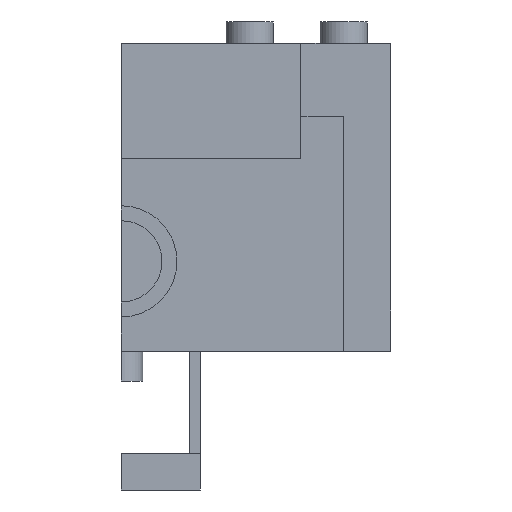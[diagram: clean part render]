
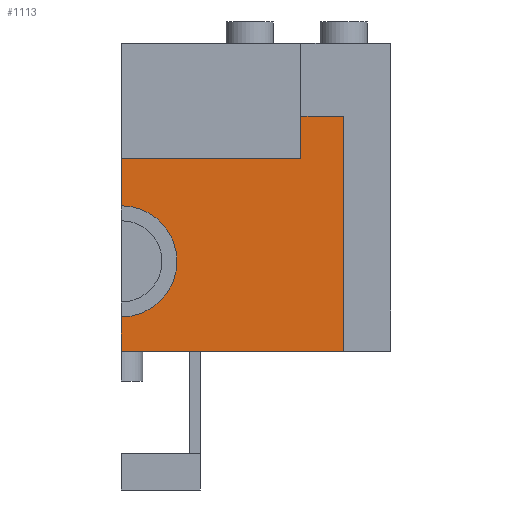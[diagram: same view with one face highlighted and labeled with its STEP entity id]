
A CAD part, left-side view. The second image highlights one B-rep face of the part: STEP entity #1113.
In plain terms, the highlighted planar face has unit normal (-1, 0, 0).
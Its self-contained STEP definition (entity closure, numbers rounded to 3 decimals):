
#100 = PLANE('',#101);
#101 = AXIS2_PLACEMENT_3D('',#102,#103,#104);
#102 = CARTESIAN_POINT('',(-48.,-63.,714.));
#103 = DIRECTION('',(0.,0.,1.));
#104 = DIRECTION('',(1.,0.,-0.));
#127 = PLANE('',#128);
#128 = AXIS2_PLACEMENT_3D('',#129,#130,#131);
#129 = CARTESIAN_POINT('',(-62.,-52.,714.));
#130 = DIRECTION('',(-0.,1.,0.));
#131 = DIRECTION('',(0.,0.,1.));
#153 = PLANE('',#154);
#154 = AXIS2_PLACEMENT_3D('',#155,#156,#157);
#155 = CARTESIAN_POINT('',(-62.,-52.,769.));
#156 = DIRECTION('',(0.,0.,1.));
#157 = DIRECTION('',(1.,0.,-0.));
#177 = PLANE('',#178);
#178 = AXIS2_PLACEMENT_3D('',#179,#180,#181);
#179 = CARTESIAN_POINT('',(-90.,-42.,759.));
#180 = DIRECTION('',(-0.,1.,0.));
#181 = DIRECTION('',(0.,0.,1.));
#295 = VERTEX_POINT('',#296);
#296 = CARTESIAN_POINT('',(-62.,-42.,759.));
#312 = PLANE('',#313);
#313 = AXIS2_PLACEMENT_3D('',#314,#315,#316);
#314 = CARTESIAN_POINT('',(-90.,-42.,759.));
#315 = DIRECTION('',(0.,0.,1.));
#316 = DIRECTION('',(1.,0.,-0.));
#324 = EDGE_CURVE('',#295,#325,#327,.T.);
#325 = VERTEX_POINT('',#326);
#326 = CARTESIAN_POINT('',(-62.,-42.,769.));
#327 = SURFACE_CURVE('',#328,(#332,#338),.PCURVE_S1.);
#328 = LINE('',#329,#330);
#329 = CARTESIAN_POINT('',(-62.,-42.,736.5));
#330 = VECTOR('',#331,1.);
#331 = DIRECTION('',(0.,0.,1.));
#332 = PCURVE('',#177,#333);
#333 = DEFINITIONAL_REPRESENTATION('',(#334),#337);
#334 = B_SPLINE_CURVE_WITH_KNOTS('',1,(#335,#336),.UNSPECIFIED.,.F.,.F.,
  (2,2),(22.5,32.5),.PIECEWISE_BEZIER_KNOTS.);
#335 = CARTESIAN_POINT('',(0.,28.));
#336 = CARTESIAN_POINT('',(10.,28.));
#337 = ( GEOMETRIC_REPRESENTATION_CONTEXT(2) 
PARAMETRIC_REPRESENTATION_CONTEXT() REPRESENTATION_CONTEXT('2D SPACE',''
  ) );
#338 = PCURVE('',#339,#344);
#339 = PLANE('',#340);
#340 = AXIS2_PLACEMENT_3D('',#341,#342,#343);
#341 = CARTESIAN_POINT('',(-62.,-52.,714.));
#342 = DIRECTION('',(1.,0.,-0.));
#343 = DIRECTION('',(0.,0.,1.));
#344 = DEFINITIONAL_REPRESENTATION('',(#345),#348);
#345 = B_SPLINE_CURVE_WITH_KNOTS('',1,(#346,#347),.UNSPECIFIED.,.F.,.F.,
  (2,2),(22.5,32.5),.PIECEWISE_BEZIER_KNOTS.);
#346 = CARTESIAN_POINT('',(45.,-10.));
#347 = CARTESIAN_POINT('',(55.,-10.));
#348 = ( GEOMETRIC_REPRESENTATION_CONTEXT(2) 
PARAMETRIC_REPRESENTATION_CONTEXT() REPRESENTATION_CONTEXT('2D SPACE',''
  ) );
#396 = EDGE_CURVE('',#397,#325,#399,.T.);
#397 = VERTEX_POINT('',#398);
#398 = CARTESIAN_POINT('',(-62.,-52.,769.));
#399 = SURFACE_CURVE('',#400,(#404,#411),.PCURVE_S1.);
#400 = LINE('',#401,#402);
#401 = CARTESIAN_POINT('',(-62.,-52.,769.));
#402 = VECTOR('',#403,1.);
#403 = DIRECTION('',(-0.,1.,0.));
#404 = PCURVE('',#153,#405);
#405 = DEFINITIONAL_REPRESENTATION('',(#406),#410);
#406 = LINE('',#407,#408);
#407 = CARTESIAN_POINT('',(0.,0.));
#408 = VECTOR('',#409,1.);
#409 = DIRECTION('',(0.,1.));
#410 = ( GEOMETRIC_REPRESENTATION_CONTEXT(2) 
PARAMETRIC_REPRESENTATION_CONTEXT() REPRESENTATION_CONTEXT('2D SPACE',''
  ) );
#411 = PCURVE('',#339,#412);
#412 = DEFINITIONAL_REPRESENTATION('',(#413),#417);
#413 = LINE('',#414,#415);
#414 = CARTESIAN_POINT('',(55.,0.));
#415 = VECTOR('',#416,1.);
#416 = DIRECTION('',(0.,-1.));
#417 = ( GEOMETRIC_REPRESENTATION_CONTEXT(2) 
PARAMETRIC_REPRESENTATION_CONTEXT() REPRESENTATION_CONTEXT('2D SPACE',''
  ) );
#445 = VERTEX_POINT('',#446);
#446 = CARTESIAN_POINT('',(-62.,-52.,714.));
#467 = EDGE_CURVE('',#445,#397,#468,.T.);
#468 = SURFACE_CURVE('',#469,(#473,#480),.PCURVE_S1.);
#469 = LINE('',#470,#471);
#470 = CARTESIAN_POINT('',(-62.,-52.,714.));
#471 = VECTOR('',#472,1.);
#472 = DIRECTION('',(0.,0.,1.));
#473 = PCURVE('',#127,#474);
#474 = DEFINITIONAL_REPRESENTATION('',(#475),#479);
#475 = LINE('',#476,#477);
#476 = CARTESIAN_POINT('',(0.,0.));
#477 = VECTOR('',#478,1.);
#478 = DIRECTION('',(1.,0.));
#479 = ( GEOMETRIC_REPRESENTATION_CONTEXT(2) 
PARAMETRIC_REPRESENTATION_CONTEXT() REPRESENTATION_CONTEXT('2D SPACE',''
  ) );
#480 = PCURVE('',#339,#481);
#481 = DEFINITIONAL_REPRESENTATION('',(#482),#486);
#482 = LINE('',#483,#484);
#483 = CARTESIAN_POINT('',(0.,0.));
#484 = VECTOR('',#485,1.);
#485 = DIRECTION('',(1.,0.));
#486 = ( GEOMETRIC_REPRESENTATION_CONTEXT(2) 
PARAMETRIC_REPRESENTATION_CONTEXT() REPRESENTATION_CONTEXT('2D SPACE',''
  ) );
#496 = VERTEX_POINT('',#497);
#497 = CARTESIAN_POINT('',(-62.,0.,714.));
#510 = PLANE('',#511);
#511 = AXIS2_PLACEMENT_3D('',#512,#513,#514);
#512 = CARTESIAN_POINT('',(-400.,0.,0.));
#513 = DIRECTION('',(-0.,1.,0.));
#514 = DIRECTION('',(0.,0.,1.));
#521 = EDGE_CURVE('',#445,#496,#522,.T.);
#522 = SURFACE_CURVE('',#523,(#527,#534),.PCURVE_S1.);
#523 = LINE('',#524,#525);
#524 = CARTESIAN_POINT('',(-62.,-52.,714.));
#525 = VECTOR('',#526,1.);
#526 = DIRECTION('',(-0.,1.,0.));
#527 = PCURVE('',#100,#528);
#528 = DEFINITIONAL_REPRESENTATION('',(#529),#533);
#529 = LINE('',#530,#531);
#530 = CARTESIAN_POINT('',(-14.,11.));
#531 = VECTOR('',#532,1.);
#532 = DIRECTION('',(0.,1.));
#533 = ( GEOMETRIC_REPRESENTATION_CONTEXT(2) 
PARAMETRIC_REPRESENTATION_CONTEXT() REPRESENTATION_CONTEXT('2D SPACE',''
  ) );
#534 = PCURVE('',#339,#535);
#535 = DEFINITIONAL_REPRESENTATION('',(#536),#540);
#536 = LINE('',#537,#538);
#537 = CARTESIAN_POINT('',(0.,0.));
#538 = VECTOR('',#539,1.);
#539 = DIRECTION('',(0.,-1.));
#540 = ( GEOMETRIC_REPRESENTATION_CONTEXT(2) 
PARAMETRIC_REPRESENTATION_CONTEXT() REPRESENTATION_CONTEXT('2D SPACE',''
  ) );
#767 = PLANE('',#768);
#768 = AXIS2_PLACEMENT_3D('',#769,#770,#771);
#769 = CARTESIAN_POINT('',(-400.,0.,0.));
#770 = DIRECTION('',(-0.,1.,0.));
#771 = DIRECTION('',(0.,0.,1.));
#1025 = VERTEX_POINT('',#1026);
#1026 = CARTESIAN_POINT('',(-62.,0.,759.));
#1045 = EDGE_CURVE('',#1025,#295,#1046,.T.);
#1046 = SURFACE_CURVE('',#1047,(#1051,#1057),.PCURVE_S1.);
#1047 = LINE('',#1048,#1049);
#1048 = CARTESIAN_POINT('',(-62.,-47.,759.));
#1049 = VECTOR('',#1050,1.);
#1050 = DIRECTION('',(0.,-1.,0.));
#1051 = PCURVE('',#312,#1052);
#1052 = DEFINITIONAL_REPRESENTATION('',(#1053),#1056);
#1053 = B_SPLINE_CURVE_WITH_KNOTS('',1,(#1054,#1055),.UNSPECIFIED.,.F.,
  .F.,(2,2),(-89.,-5.),.PIECEWISE_BEZIER_KNOTS.);
#1054 = CARTESIAN_POINT('',(28.,84.));
#1055 = CARTESIAN_POINT('',(28.,0.));
#1056 = ( GEOMETRIC_REPRESENTATION_CONTEXT(2) 
PARAMETRIC_REPRESENTATION_CONTEXT() REPRESENTATION_CONTEXT('2D SPACE',''
  ) );
#1057 = PCURVE('',#339,#1058);
#1058 = DEFINITIONAL_REPRESENTATION('',(#1059),#1062);
#1059 = B_SPLINE_CURVE_WITH_KNOTS('',1,(#1060,#1061),.UNSPECIFIED.,.F.,
  .F.,(2,2),(-89.,-5.),.PIECEWISE_BEZIER_KNOTS.);
#1060 = CARTESIAN_POINT('',(45.,-94.));
#1061 = CARTESIAN_POINT('',(45.,-10.));
#1062 = ( GEOMETRIC_REPRESENTATION_CONTEXT(2) 
PARAMETRIC_REPRESENTATION_CONTEXT() REPRESENTATION_CONTEXT('2D SPACE',''
  ) );
#1113 = ADVANCED_FACE('',(#1114),#339,.F.);
#1114 = FACE_BOUND('',#1115,.F.);
#1115 = EDGE_LOOP('',(#1116,#1117,#1118,#1119,#1140,#1169,#1188,#1189));
#1116 = ORIENTED_EDGE('',*,*,#396,.F.);
#1117 = ORIENTED_EDGE('',*,*,#467,.F.);
#1118 = ORIENTED_EDGE('',*,*,#521,.T.);
#1119 = ORIENTED_EDGE('',*,*,#1120,.T.);
#1120 = EDGE_CURVE('',#496,#1121,#1123,.T.);
#1121 = VERTEX_POINT('',#1122);
#1122 = CARTESIAN_POINT('',(-62.,0.,722.));
#1123 = SURFACE_CURVE('',#1124,(#1128,#1134),.PCURVE_S1.);
#1124 = LINE('',#1125,#1126);
#1125 = CARTESIAN_POINT('',(-62.,0.,357.));
#1126 = VECTOR('',#1127,1.);
#1127 = DIRECTION('',(0.,0.,1.));
#1128 = PCURVE('',#339,#1129);
#1129 = DEFINITIONAL_REPRESENTATION('',(#1130),#1133);
#1130 = B_SPLINE_CURVE_WITH_KNOTS('',1,(#1131,#1132),.UNSPECIFIED.,.F.,
  .F.,(2,2),(357.,412.),.PIECEWISE_BEZIER_KNOTS.);
#1131 = CARTESIAN_POINT('',(0.,-52.));
#1132 = CARTESIAN_POINT('',(55.,-52.));
#1133 = ( GEOMETRIC_REPRESENTATION_CONTEXT(2) 
PARAMETRIC_REPRESENTATION_CONTEXT() REPRESENTATION_CONTEXT('2D SPACE',''
  ) );
#1134 = PCURVE('',#510,#1135);
#1135 = DEFINITIONAL_REPRESENTATION('',(#1136),#1139);
#1136 = B_SPLINE_CURVE_WITH_KNOTS('',1,(#1137,#1138),.UNSPECIFIED.,.F.,
  .F.,(2,2),(357.,412.),.PIECEWISE_BEZIER_KNOTS.);
#1137 = CARTESIAN_POINT('',(714.,338.));
#1138 = CARTESIAN_POINT('',(769.,338.));
#1139 = ( GEOMETRIC_REPRESENTATION_CONTEXT(2) 
PARAMETRIC_REPRESENTATION_CONTEXT() REPRESENTATION_CONTEXT('2D SPACE',''
  ) );
#1140 = ORIENTED_EDGE('',*,*,#1141,.F.);
#1141 = EDGE_CURVE('',#1142,#1121,#1144,.T.);
#1142 = VERTEX_POINT('',#1143);
#1143 = CARTESIAN_POINT('',(-62.,0.,748.));
#1144 = SURFACE_CURVE('',#1145,(#1150,#1157),.PCURVE_S1.);
#1145 = CIRCLE('',#1146,13.);
#1146 = AXIS2_PLACEMENT_3D('',#1147,#1148,#1149);
#1147 = CARTESIAN_POINT('',(-62.,0.,735.));
#1148 = DIRECTION('',(1.,0.,0.));
#1149 = DIRECTION('',(0.,0.,-1.));
#1150 = PCURVE('',#339,#1151);
#1151 = DEFINITIONAL_REPRESENTATION('',(#1152),#1156);
#1152 = CIRCLE('',#1153,13.);
#1153 = AXIS2_PLACEMENT_2D('',#1154,#1155);
#1154 = CARTESIAN_POINT('',(21.,-52.));
#1155 = DIRECTION('',(-1.,0.));
#1156 = ( GEOMETRIC_REPRESENTATION_CONTEXT(2) 
PARAMETRIC_REPRESENTATION_CONTEXT() REPRESENTATION_CONTEXT('2D SPACE',''
  ) );
#1157 = PCURVE('',#1158,#1163);
#1158 = CYLINDRICAL_SURFACE('',#1159,13.);
#1159 = AXIS2_PLACEMENT_3D('',#1160,#1161,#1162);
#1160 = CARTESIAN_POINT('',(-78.,0.,735.));
#1161 = DIRECTION('',(1.,0.,0.));
#1162 = DIRECTION('',(0.,0.,-1.));
#1163 = DEFINITIONAL_REPRESENTATION('',(#1164),#1168);
#1164 = LINE('',#1165,#1166);
#1165 = CARTESIAN_POINT('',(0.,16.));
#1166 = VECTOR('',#1167,1.);
#1167 = DIRECTION('',(1.,0.));
#1168 = ( GEOMETRIC_REPRESENTATION_CONTEXT(2) 
PARAMETRIC_REPRESENTATION_CONTEXT() REPRESENTATION_CONTEXT('2D SPACE',''
  ) );
#1169 = ORIENTED_EDGE('',*,*,#1170,.T.);
#1170 = EDGE_CURVE('',#1142,#1025,#1171,.T.);
#1171 = SURFACE_CURVE('',#1172,(#1176,#1182),.PCURVE_S1.);
#1172 = LINE('',#1173,#1174);
#1173 = CARTESIAN_POINT('',(-62.,0.,357.));
#1174 = VECTOR('',#1175,1.);
#1175 = DIRECTION('',(0.,0.,1.));
#1176 = PCURVE('',#339,#1177);
#1177 = DEFINITIONAL_REPRESENTATION('',(#1178),#1181);
#1178 = B_SPLINE_CURVE_WITH_KNOTS('',1,(#1179,#1180),.UNSPECIFIED.,.F.,
  .F.,(2,2),(357.,412.),.PIECEWISE_BEZIER_KNOTS.);
#1179 = CARTESIAN_POINT('',(0.,-52.));
#1180 = CARTESIAN_POINT('',(55.,-52.));
#1181 = ( GEOMETRIC_REPRESENTATION_CONTEXT(2) 
PARAMETRIC_REPRESENTATION_CONTEXT() REPRESENTATION_CONTEXT('2D SPACE',''
  ) );
#1182 = PCURVE('',#767,#1183);
#1183 = DEFINITIONAL_REPRESENTATION('',(#1184),#1187);
#1184 = B_SPLINE_CURVE_WITH_KNOTS('',1,(#1185,#1186),.UNSPECIFIED.,.F.,
  .F.,(2,2),(357.,412.),.PIECEWISE_BEZIER_KNOTS.);
#1185 = CARTESIAN_POINT('',(714.,338.));
#1186 = CARTESIAN_POINT('',(769.,338.));
#1187 = ( GEOMETRIC_REPRESENTATION_CONTEXT(2) 
PARAMETRIC_REPRESENTATION_CONTEXT() REPRESENTATION_CONTEXT('2D SPACE',''
  ) );
#1188 = ORIENTED_EDGE('',*,*,#1045,.T.);
#1189 = ORIENTED_EDGE('',*,*,#324,.T.);
